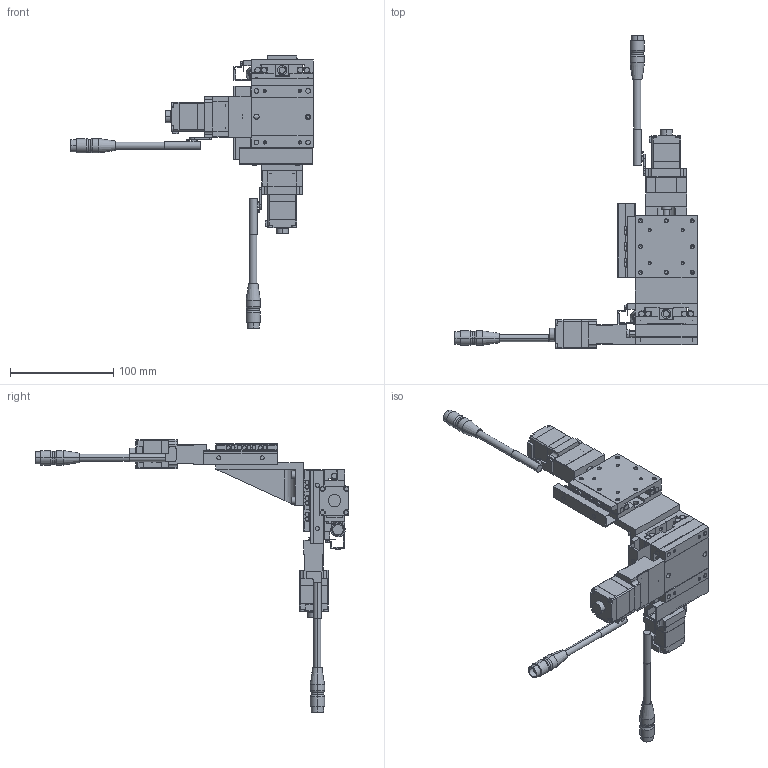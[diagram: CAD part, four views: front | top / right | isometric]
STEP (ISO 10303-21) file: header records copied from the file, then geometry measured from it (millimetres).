
FILE_DESCRIPTION(('STEP AP203'),'1');
FILE_NAME('C:/3D-Trans/3D_PMZG615T-L□-T+241108.step','2024-11-08T06:14:10',(' '),(' '),'Spatial InterOp 3D',' ',' ');
FILE_SCHEMA(('CONFIG_CONTROL_DESIGN'));
Length unit declared in the file: millimetre
Products named in the file (19): 1; 2; 3; 4; 5; 6; 7; 8; 9; 10; 11; 12; 13; 14; 15; 16; 17; 18; 19
Bounding box: 235 x 304 x 264 mm (x, y, z)
Volume: 416145 mm3; surface area: 178297.8 mm2
Topology: 19 solids, 19 shells, 1814 faces, 4591 edges, 2895 vertices
Faces by surface type: plane 1043, cylinder 553, cone 218
Entity records: 54871 total; most frequent: DIRECTION 9587, CARTESIAN_POINT 9295, ORIENTED_EDGE 9062, EDGE_CURVE 4531, AXIS2_PLACEMENT_3D 3229, LINE 3129, VECTOR 3129, VERTEX_POINT 2895
